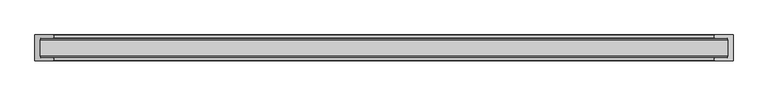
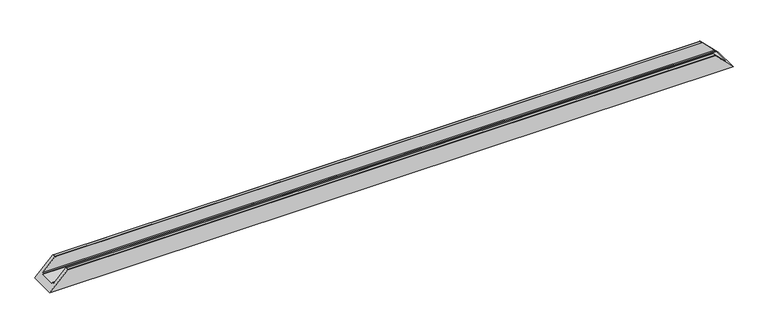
"""IFC4 building model written with IfcOpenShell, lengths in millimetres: proxy geometry, Weiku - Montante - Caixilho único 02.3.02.403 : Weiku - Montante - Caixilho único 02.3.02.403."""

from ifc_helpers import new_model, si_unit, frame, origin, place, context, project, spatial, ellipse_curve, source, transform, mapped, element, save
from ifc_brep_helpers import plane_surface, cylinder_surface, advanced_brep


def generic_models_e0b63844(model_context):
    return source(origin(), model_context, "Body", "AdvancedBrep", [
        advanced_brep(
        [(-1038.2, -9.8, 18.2), (1038.2, -9.8, 18.2), (1000.5, -9.8, 55.9), (-1000.5, -9.8, 55.9), (-1040.7000079, -63.85, 15.6999921), (1040.7000079, -63.85, 15.6999921), (1040.7000079, -15.05, 15.6999921), (-1040.7000079, -15.05, 15.6999921), (-1056.4, -78.9, 0.0), (-1056.4, 0.0, 0.0), (1056.4, 0.0, 0.0), (1056.4, -78.9, 0.0), (-1000.5, 0.0, 55.9), (1000.5, 0.0, 55.9), (-1000.0, -9.3, 56.4), (1000.0, -9.3, 56.4), (1000.0, -0.5, 56.4), (-1000.0, -0.5, 56.4), (-1038.2, -15.05, 18.2), (1038.2, -15.05, 18.2), (-1038.2, -63.85, 18.2), (1038.2, -63.85, 18.2), (-1038.2, -69.1, 18.2), (1038.2, -69.1, 18.2), (-1000.5, -69.1, 55.9), (1000.5, -69.1, 55.9), (-1000.0, -78.4, 56.4), (1000.0, -78.4, 56.4), (1000.0, -69.6, 56.4), (-1000.0, -69.6, 56.4), (-1000.5, -78.9, 55.9), (1000.5, -78.9, 55.9)],
        [
            (0, 1),
            (1, 2),
            (2, 3),
            (3, 0),
            (4, 5),
            (5, 6),
            (6, 7),
            (7, 4),
            (8, 9),
            (9, 10),
            (10, 11),
            (11, 8),
            (9, 12),
            (12, 13),
            (13, 10),
            (14, 15),
            (15, 16),
            (16, 17),
            (17, 14),
            (18, 19),
            (19, 1),
            (0, 18),
            (6, 19),
            (18, 7),
            (16, 13, ellipse_curve(frame((1000.5, -0.5, 55.9), z_axis=(-0.7071067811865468, 0.0, -0.7071067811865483), x_axis=(-0.7071067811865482, 0.0, 0.7071067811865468)), 0.7071068, 0.5)),
            (12, 17, ellipse_curve(frame((-1000.5, -0.5, 55.9), z_axis=(0.7071067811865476, 0.0, -0.7071067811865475), x_axis=(-0.7071067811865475, 0.0, -0.7071067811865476)), 0.7071068, 0.5)),
            (20, 21),
            (21, 5),
            (4, 20),
            (22, 23),
            (23, 21),
            (20, 22),
            (24, 25),
            (25, 23),
            (22, 24),
            (26, 27),
            (27, 28),
            (28, 29),
            (29, 26),
            (30, 31),
            (31, 27, ellipse_curve(frame((1000.5, -78.4, 55.9), z_axis=(-0.7071067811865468, 0.0, -0.7071067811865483), x_axis=(-0.7071067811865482, 0.0, 0.7071067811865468)), 0.7071068, 0.5)),
            (26, 30, ellipse_curve(frame((-1000.5, -78.4, 55.9), z_axis=(0.7071067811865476, 0.0, -0.7071067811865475), x_axis=(-0.7071067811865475, 0.0, -0.7071067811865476)), 0.7071068, 0.5)),
            (11, 31),
            (30, 8),
            (2, 15, ellipse_curve(frame((1000.5, -9.3, 55.9), z_axis=(-0.7071067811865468, 0.0, -0.7071067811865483), x_axis=(-0.7071067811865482, 0.0, 0.7071067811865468)), 0.7071068, 0.5)),
            (14, 3, ellipse_curve(frame((-1000.5, -9.3, 55.9), z_axis=(0.7071067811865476, 0.0, -0.7071067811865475), x_axis=(-0.7071067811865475, 0.0, -0.7071067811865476)), 0.7071068, 0.5)),
            (28, 25, ellipse_curve(frame((1000.5, -69.6, 55.9), z_axis=(-0.7071067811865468, 0.0, -0.7071067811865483), x_axis=(-0.7071067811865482, 0.0, 0.7071067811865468)), 0.7071068, 0.5)),
            (24, 29, ellipse_curve(frame((-1000.5, -69.6, 55.9), z_axis=(0.7071067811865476, 0.0, -0.7071067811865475), x_axis=(-0.7071067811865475, 0.0, -0.7071067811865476)), 0.7071068, 0.5)),
        ],
        [
            plane_surface(frame((-1056.4, -9.8, 55.9), z_axis=(0.0, -1.0, 0.0), x_axis=(1.0, 0.0, 0.0))),
            plane_surface(frame((-1056.4, -15.05, 15.6999921), z_axis=(0.0, 0.0, 1.0), x_axis=(1.0, 0.0, 0.0))),
            plane_surface(frame((-1056.4, -78.9, 0.0), z_axis=(0.0, 0.0, -1.0), x_axis=(1.0, 0.0, 0.0))),
            plane_surface(frame((-1056.4, 0.0, 0.0), z_axis=(0.0, 1.0, 0.0), x_axis=(1.0, 0.0, 0.0))),
            plane_surface(frame((-1056.4, -0.5, 56.4), z_axis=(0.0, 0.0, 1.0), x_axis=(1.0, 0.0, 0.0))),
            plane_surface(frame((-1056.4, -9.8, 18.2), z_axis=(0.0, 0.0, 1.0), x_axis=(1.0, 0.0, 0.0))),
            plane_surface(frame((-1056.4, -15.05, 18.2), z_axis=(0.0, -1.0, 0.0), x_axis=(1.0, 0.0, 0.0))),
            cylinder_surface(frame((-1056.4, -0.5, 55.9), z_axis=(-1.0, 0.0, 0.0), x_axis=(0.0, -1.0, 0.0)), 0.5),
            plane_surface(frame((-1056.4, -63.85, 15.6999921), z_axis=(0.0, 1.0, 0.0), x_axis=(1.0, 0.0, 0.0))),
            plane_surface(frame((-1056.4, -63.85, 18.2), z_axis=(0.0, 0.0, 1.0), x_axis=(1.0, 0.0, 0.0))),
            plane_surface(frame((-1056.4, -69.1, 18.2), z_axis=(0.0, 1.0, 0.0), x_axis=(1.0, 0.0, 0.0))),
            plane_surface(frame((-1056.4, -69.6, 56.4), z_axis=(0.0, 0.0, 1.0), x_axis=(1.0, 0.0, 0.0))),
            cylinder_surface(frame((-1056.4, -78.4, 55.9), z_axis=(-1.0, 0.0, 0.0), x_axis=(0.0, 1.0, 0.0)), 0.5),
            plane_surface(frame((-1056.4, -78.9, 55.9), z_axis=(0.0, -1.0, 0.0), x_axis=(1.0, 0.0, 0.0))),
            cylinder_surface(frame((-1056.4, -9.3, 55.9), z_axis=(-1.0, 0.0, 0.0), x_axis=(0.0, -1.0, 0.0)), 0.5),
            cylinder_surface(frame((-1056.4, -69.6, 55.9), z_axis=(-1.0, 0.0, 0.0), x_axis=(0.0, -1.0, 0.0)), 0.5),
            plane_surface(frame((-1056.4, 0.0, 0.0), z_axis=(-0.7071067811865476, 0.0, 0.7071067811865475), x_axis=(0.0, -1.0, 0.0))),
            plane_surface(frame((996.4, 0.0, 60.0), z_axis=(0.7071067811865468, 0.0, 0.7071067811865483), x_axis=(0.0, -1.0, 0.0))),
        ],
        [
            (0, [[1, 2, 3, 4]]),
            (1, [[5, 6, 7, 8]]),
            (2, [[9, 10, 11, 12]]),
            (3, [[13, 14, 15, -10]]),
            (4, [[16, 17, 18, 19]]),
            (5, [[20, 21, -1, 22]]),
            (6, [[-7, 23, -20, 24]]),
            (7, [[-18, 25, -14, 26]]),
            (8, [[27, 28, -5, 29]]),
            (9, [[30, 31, -27, 32]]),
            (10, [[33, 34, -30, 35]]),
            (11, [[36, 37, 38, 39]]),
            (12, [[40, 41, -36, 42]]),
            (13, [[43, -40, 44, -12]]),
            (14, [[-3, 45, -16, 46]]),
            (15, [[-38, 47, -33, 48]]),
            (16, [[-46, -19, -26, -13, -9, -44, -42, -39, -48, -35, -32, -29, -8, -24, -22, -4]]),
            (17, [[-21, -23, -6, -28, -31, -34, -47, -37, -41, -43, -11, -15, -25, -17, -45, -2]]),
        ],
    ),
    ])


if __name__ == "__main__":
    model = new_model("IFC4")
    model_context = context("Model", 3, world=origin())
    ifc_project = project(units=[si_unit("LENGTHUNIT", "METRE", prefix="MILLI")], contexts=[model_context])
    site = spatial("IfcSite", under=ifc_project)
    building = spatial("IfcBuilding", under=site)
    placement = place(None, origin())
    generic_models_shape = generic_models_e0b63844(model_context)
    element("IfcBuildingElementProxy", 1, Name="Weiku - Montante - Caixilho único 02.3.02.403 : Weiku - Montante - Caixilho único 02.3.02.403", ObjectType="Weiku - Montante - Caixilho único 02.3.02.403 : Weiku - Montante - Caixilho único 02.3.02.403", at=placement, inside=building, context=model_context, shape_type="MappedRepresentation", body=[
        mapped(generic_models_shape, transform((0.0, 0.0, 0.0), x_axis=(1.0, 0.0, 0.0), y_axis=(0.0, 1.0, 0.0), z_axis=(0.0, 0.0, 1.0))),
    ])
    save(model, "model.ifc")
